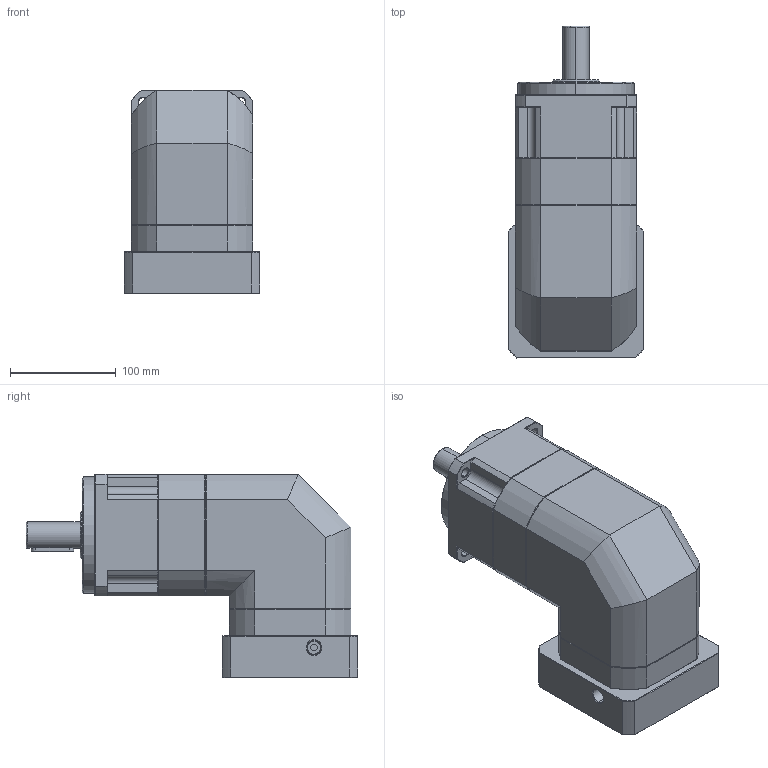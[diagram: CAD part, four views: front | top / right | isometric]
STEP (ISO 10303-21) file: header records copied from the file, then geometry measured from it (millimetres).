
FILE_DESCRIPTION (( 'STEP AP214' ), '1' );
FILE_NAME ('ZPBR115-D25-L2-P1-19-110-145-M8.step', '2024-06-29T08:00:12', ( 'Windows 蚚誧' ), ( 'Organization' ), 'SwSTEP 2.0', 'SolidWorks 2016', '' );
FILE_SCHEMA (( 'AUTOMOTIVE_DESIGN' ));
Length unit declared in the file: millimetre
Products named in the file (1): ZPBR115-D25-L2-P1-19-110-145-M8
Bounding box: 128 x 313.5 x 192.2 mm (x, y, z)
Surface area: 211641.7 mm2 (no closed solid volume)
Topology: 0 solids, 29 shells, 1843 faces, 4958 edges, 3175 vertices
Faces by surface type: plane 941, bspline 381, cone 286, cylinder 235
Full cylindrical faces by diameter (mm): 10.2 x1
Entity records: 99324 total; most frequent: CARTESIAN_POINT 49109, ORIENTED_EDGE 9886, DIRECTION 7587, EDGE_CURVE 4952, LINE 3199, VECTOR 3199, VERTEX_POINT 3173, AXIS2_PLACEMENT_3D 2194
